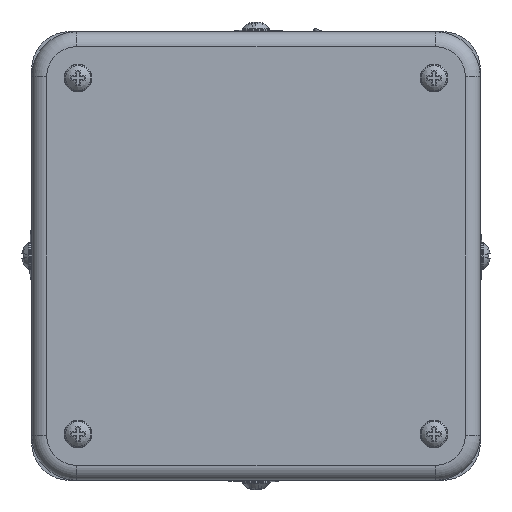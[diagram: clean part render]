
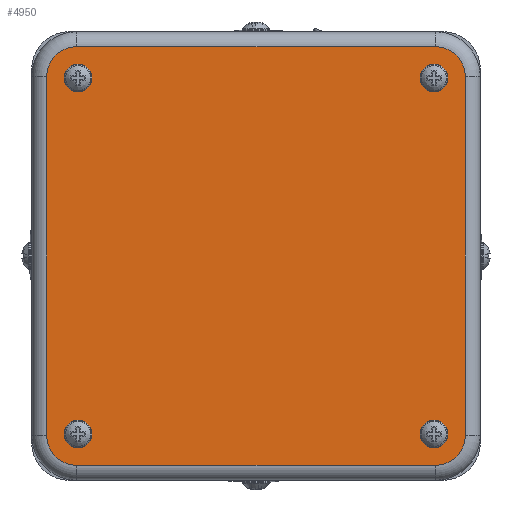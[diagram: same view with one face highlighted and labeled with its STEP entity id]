
A CAD part, left-side view. The second image highlights one B-rep face of the part: STEP entity #4950.
In plain terms, the highlighted planar face has unit normal (-1, 0, 0).
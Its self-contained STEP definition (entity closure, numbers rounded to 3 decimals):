
#245=FACE_BOUND('',#1008,.T.);
#246=FACE_BOUND('',#1009,.T.);
#247=FACE_BOUND('',#1010,.T.);
#248=FACE_BOUND('',#1011,.T.);
#417=PLANE('',#5419);
#681=FACE_OUTER_BOUND('',#1007,.T.);
#1007=EDGE_LOOP('',(#4274,#4275,#4276,#4277,#4278,#4279,#4280,#4281));
#1008=EDGE_LOOP('',(#4282));
#1009=EDGE_LOOP('',(#4283));
#1010=EDGE_LOOP('',(#4284));
#1011=EDGE_LOOP('',(#4285));
#1379=LINE('',#8684,#1748);
#1380=LINE('',#8688,#1749);
#1381=LINE('',#8692,#1750);
#1382=LINE('',#8695,#1751);
#1748=VECTOR('',#6577,72.);
#1749=VECTOR('',#6580,72.);
#1750=VECTOR('',#6583,72.);
#1751=VECTOR('',#6586,72.);
#1937=CIRCLE('',#5261,2.8);
#1948=CIRCLE('',#5290,2.8);
#1993=CIRCLE('',#5420,6.);
#1994=CIRCLE('',#5421,6.);
#1995=CIRCLE('',#5422,6.);
#1996=CIRCLE('',#5423,6.);
#1997=CIRCLE('',#5424,2.8);
#1998=CIRCLE('',#5425,2.8);
#2202=VERTEX_POINT('',#7453);
#2236=VERTEX_POINT('',#7658);
#2412=VERTEX_POINT('',#8680);
#2413=VERTEX_POINT('',#8681);
#2414=VERTEX_POINT('',#8683);
#2415=VERTEX_POINT('',#8685);
#2416=VERTEX_POINT('',#8687);
#2417=VERTEX_POINT('',#8689);
#2418=VERTEX_POINT('',#8691);
#2419=VERTEX_POINT('',#8693);
#2420=VERTEX_POINT('',#8696);
#2421=VERTEX_POINT('',#8698);
#2746=EDGE_CURVE('',#2202,#2202,#1937,.T.);
#2797=EDGE_CURVE('',#2236,#2236,#1948,.T.);
#3054=EDGE_CURVE('',#2412,#2413,#1993,.T.);
#3055=EDGE_CURVE('',#2414,#2412,#1379,.T.);
#3056=EDGE_CURVE('',#2415,#2414,#1994,.T.);
#3057=EDGE_CURVE('',#2416,#2415,#1380,.T.);
#3058=EDGE_CURVE('',#2417,#2416,#1995,.T.);
#3059=EDGE_CURVE('',#2418,#2417,#1381,.T.);
#3060=EDGE_CURVE('',#2419,#2418,#1996,.T.);
#3061=EDGE_CURVE('',#2413,#2419,#1382,.T.);
#3062=EDGE_CURVE('',#2420,#2420,#1997,.T.);
#3063=EDGE_CURVE('',#2421,#2421,#1998,.T.);
#4274=ORIENTED_EDGE('',*,*,#3054,.F.);
#4275=ORIENTED_EDGE('',*,*,#3055,.F.);
#4276=ORIENTED_EDGE('',*,*,#3056,.F.);
#4277=ORIENTED_EDGE('',*,*,#3057,.F.);
#4278=ORIENTED_EDGE('',*,*,#3058,.F.);
#4279=ORIENTED_EDGE('',*,*,#3059,.F.);
#4280=ORIENTED_EDGE('',*,*,#3060,.F.);
#4281=ORIENTED_EDGE('',*,*,#3061,.F.);
#4282=ORIENTED_EDGE('',*,*,#3062,.T.);
#4283=ORIENTED_EDGE('',*,*,#2746,.T.);
#4284=ORIENTED_EDGE('',*,*,#3063,.T.);
#4285=ORIENTED_EDGE('',*,*,#2797,.T.);
#4950=ADVANCED_FACE('',(#681,#245,#246,#247,#248),#417,.F.);
#5261=AXIS2_PLACEMENT_3D('',#7454,#6089,#6090);
#5290=AXIS2_PLACEMENT_3D('',#7659,#6173,#6174);
#5419=AXIS2_PLACEMENT_3D('',#8679,#6573,#6574);
#5420=AXIS2_PLACEMENT_3D('',#8682,#6575,#6576);
#5421=AXIS2_PLACEMENT_3D('',#8686,#6578,#6579);
#5422=AXIS2_PLACEMENT_3D('',#8690,#6581,#6582);
#5423=AXIS2_PLACEMENT_3D('',#8694,#6584,#6585);
#5424=AXIS2_PLACEMENT_3D('',#8697,#6587,#6588);
#5425=AXIS2_PLACEMENT_3D('',#8699,#6589,#6590);
#6089=DIRECTION('center_axis',(1.,0.,0.));
#6090=DIRECTION('ref_axis',(0.,-1.,0.));
#6173=DIRECTION('center_axis',(1.,0.,0.));
#6174=DIRECTION('ref_axis',(0.,-1.,0.));
#6573=DIRECTION('center_axis',(1.,0.,0.));
#6574=DIRECTION('ref_axis',(0.,1.,0.));
#6575=DIRECTION('center_axis',(1.,0.,0.));
#6576=DIRECTION('ref_axis',(0.,0.707,-0.707));
#6577=DIRECTION('',(0.,1.,0.));
#6578=DIRECTION('center_axis',(1.,0.,0.));
#6579=DIRECTION('ref_axis',(0.,-0.707,-0.707));
#6580=DIRECTION('',(0.,0.,-1.));
#6581=DIRECTION('center_axis',(1.,0.,0.));
#6582=DIRECTION('ref_axis',(0.,-0.707,0.707));
#6583=DIRECTION('',(0.,-1.,0.));
#6584=DIRECTION('center_axis',(1.,0.,0.));
#6585=DIRECTION('ref_axis',(0.,0.707,0.707));
#6586=DIRECTION('',(0.,0.,1.));
#6587=DIRECTION('center_axis',(1.,0.,0.));
#6588=DIRECTION('ref_axis',(0.,-1.,0.));
#6589=DIRECTION('center_axis',(1.,0.,0.));
#6590=DIRECTION('ref_axis',(0.,-1.,0.));
#7453=CARTESIAN_POINT('',(-123.672,-31.097,-23.376));
#7454=CARTESIAN_POINT('Origin',(-123.672,-33.897,-23.376));
#7658=CARTESIAN_POINT('',(-123.672,40.32,-23.376));
#7659=CARTESIAN_POINT('Origin',(-123.672,37.52,-23.376));
#8679=CARTESIAN_POINT('Origin',(-123.672,8.839,5.306));
#8680=CARTESIAN_POINT('',(-123.672,37.811,-29.667));
#8681=CARTESIAN_POINT('',(-123.672,43.811,-23.667));
#8682=CARTESIAN_POINT('Origin',(-123.672,37.811,-23.667));
#8683=CARTESIAN_POINT('',(-123.672,-34.189,-29.667));
#8684=CARTESIAN_POINT('',(-123.672,-34.189,-29.667));
#8685=CARTESIAN_POINT('',(-123.672,-40.189,-23.667));
#8686=CARTESIAN_POINT('Origin',(-123.672,-34.189,-23.667));
#8687=CARTESIAN_POINT('',(-123.672,-40.189,48.333));
#8688=CARTESIAN_POINT('',(-123.672,-40.189,48.333));
#8689=CARTESIAN_POINT('',(-123.672,-34.189,54.333));
#8690=CARTESIAN_POINT('Origin',(-123.672,-34.189,48.333));
#8691=CARTESIAN_POINT('',(-123.672,37.811,54.333));
#8692=CARTESIAN_POINT('',(-123.672,37.811,54.333));
#8693=CARTESIAN_POINT('',(-123.672,43.811,48.333));
#8694=CARTESIAN_POINT('Origin',(-123.672,37.811,48.333));
#8695=CARTESIAN_POINT('',(-123.672,43.811,-23.667));
#8696=CARTESIAN_POINT('',(-123.672,-31.097,48.042));
#8697=CARTESIAN_POINT('Origin',(-123.672,-33.897,48.042));
#8698=CARTESIAN_POINT('',(-123.672,40.32,48.042));
#8699=CARTESIAN_POINT('Origin',(-123.672,37.52,48.042));
